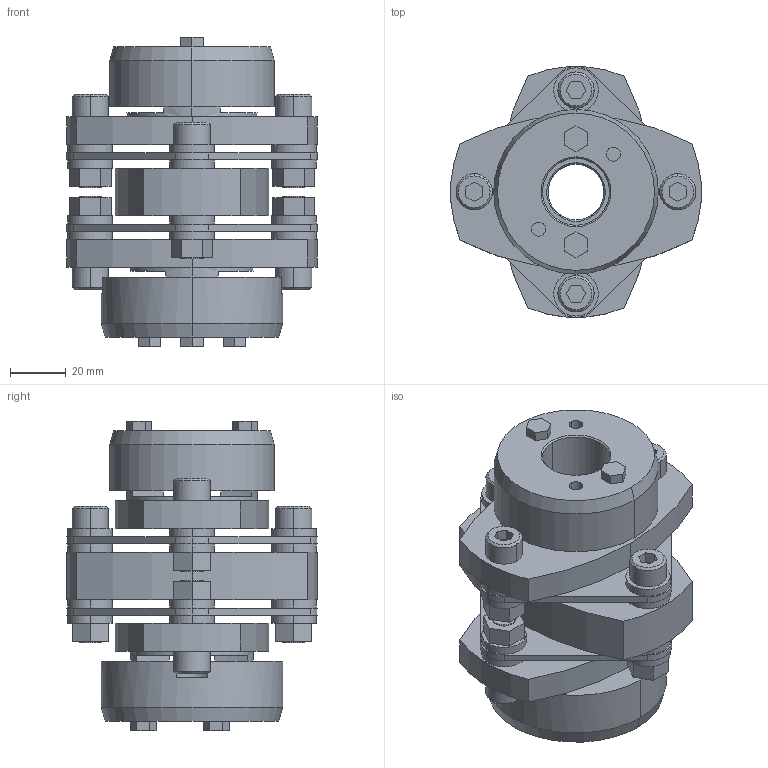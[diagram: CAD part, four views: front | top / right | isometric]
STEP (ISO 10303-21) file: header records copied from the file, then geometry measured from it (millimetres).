
FILE_DESCRIPTION((''),'2;1');
FILE_NAME('LCD-90T7-20×24.stp','2015-11-01T20:02:32',(''),(''),'AutoCAD STEP 2000i','AutoCAD 2000i',', , ');
FILE_SCHEMA(('CONFIG_CONTROL_DESIGN'));
Length unit declared in the file: millimetre
Products named in the file (8): LCD-90T7-20×25; 忣兜1; LC90T7-T020; LC90T7-T025-1; LC90T7-T025; LC90T7-T019-1; LC90T7-T019; LCD90-ITA
Assembly tree (7 placements, depth 2):
  LCD-90T7-20×25
    忣兜1
    LC90T7-T020
    LC90T7-T025-1
    LC90T7-T025
    LC90T7-T019-1
    LC90T7-T019
    LCD90-ITA
Bounding box: 90 x 89.94 x 111 mm (x, y, z)
Volume: 285525.1 mm3; surface area: 75081.8 mm2
Topology: 1 solids, 1 shells, 317 faces, 774 edges, 508 vertices
Faces by surface type: plane 171, cylinder 122, cone 24
Entity records: 9609 total; most frequent: DIRECTION 1712, CARTESIAN_POINT 1607, ORIENTED_EDGE 1548, EDGE_CURVE 774, AXIS2_PLACEMENT_3D 613, VERTEX_POINT 508, VECTOR 486, LINE 486
